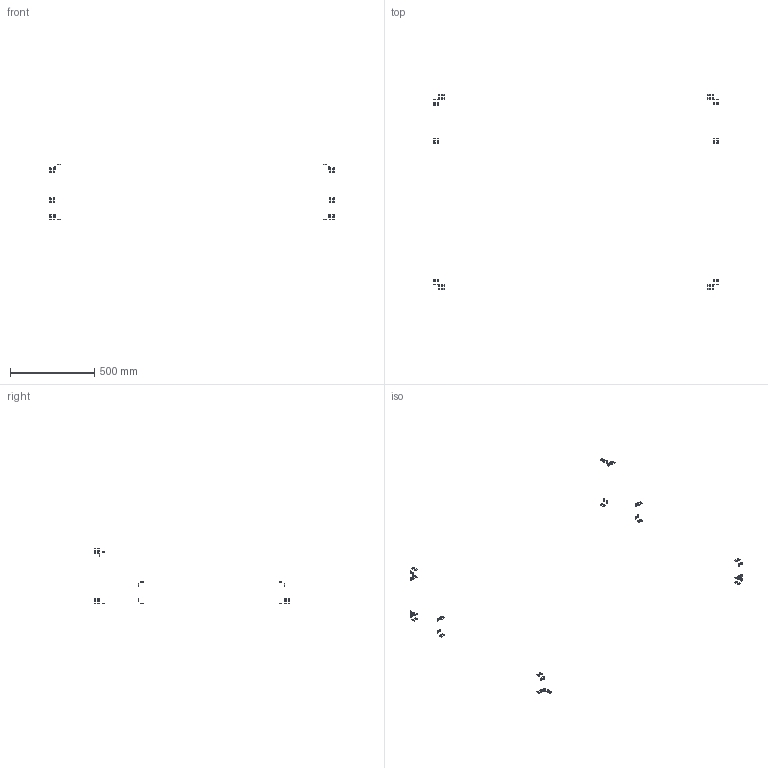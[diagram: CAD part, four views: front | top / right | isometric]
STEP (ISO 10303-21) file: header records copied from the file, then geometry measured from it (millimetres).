
FILE_DESCRIPTION(/* description */ (''),/* implementation_level */ '2;1');
FILE_NAME(/* name */ '1.frame-bottom#1.4#HNTPZ5-5',/* time_stamp */ '2014-12-01T20:11:14+01:00',/* author */ (''),/* organization */ (''),/* preprocessor_version */ 'ST-DEVELOPER v14',/* originating_system */ '',/* authorisation */ '');
FILE_SCHEMA (('AUTOMOTIVE_DESIGN'));
Length unit declared in the file: millimetre
Products named in the file (2): Document; nut tslot, post, M5
Assembly tree (32 placements, depth 2):
  Document
    nut tslot, post, M5  x32
Bounding box: 1688.3 x 1158.3 x 330.4 mm (x, y, z)
Volume: 21421.6 mm3; surface area: 28528 mm2
Topology: 68 solids, 68 shells, 884 faces, 2448 edges, 1632 vertices
Faces by surface type: plane 748, bspline 136
Entity records: 35521 total; most frequent: CARTESIAN_POINT 16907, B_SPLINE_CURVE_WITH_KNOTS 3700, ORIENTED_EDGE 2664, PCURVE 2664, DEFINITIONAL_REPRESENTATION 2664, SURFACE_CURVE 1332, EDGE_CURVE 1332, VERTEX_POINT 888
